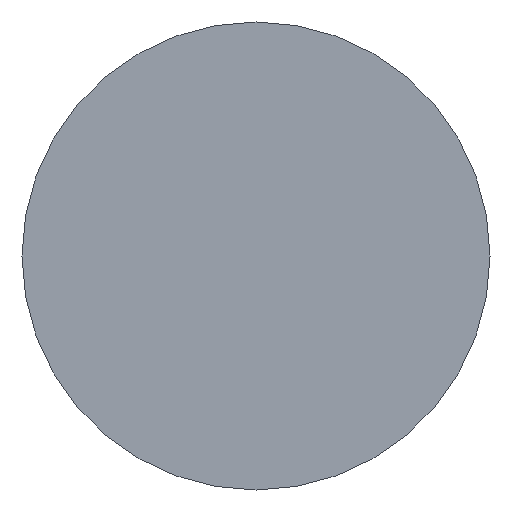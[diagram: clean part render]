
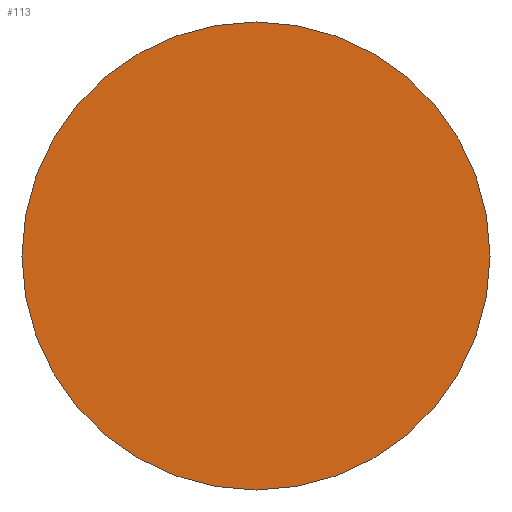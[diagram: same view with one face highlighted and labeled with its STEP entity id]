
A CAD part, front view. The second image highlights one B-rep face of the part: STEP entity #113.
In plain terms, the highlighted planar face has unit normal (0, -1, 0).
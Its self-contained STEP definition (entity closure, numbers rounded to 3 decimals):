
#22 = VERTEX_POINT('',#23);
#23 = CARTESIAN_POINT('',(39.5,4.,-10.));
#32 = CYLINDRICAL_SURFACE('',#33,2.5);
#33 = AXIS2_PLACEMENT_3D('',#34,#35,#36);
#34 = CARTESIAN_POINT('',(42.,4.,-10.));
#35 = DIRECTION('',(0.,-1.,0.));
#36 = DIRECTION('',(-1.,-0.,-0.));
#83 = EDGE_CURVE('',#22,#22,#84,.T.);
#84 = SURFACE_CURVE('',#85,(#90,#97),.PCURVE_S1.);
#85 = CIRCLE('',#86,2.5);
#86 = AXIS2_PLACEMENT_3D('',#87,#88,#89);
#87 = CARTESIAN_POINT('',(42.,4.,-10.));
#88 = DIRECTION('',(0.,-1.,0.));
#89 = DIRECTION('',(-1.,-0.,-0.));
#90 = PCURVE('',#32,#91);
#91 = DEFINITIONAL_REPRESENTATION('',(#92),#96);
#92 = LINE('',#93,#94);
#93 = CARTESIAN_POINT('',(0.,0.));
#94 = VECTOR('',#95,1.);
#95 = DIRECTION('',(1.,0.));
#96 = ( GEOMETRIC_REPRESENTATION_CONTEXT(2) 
PARAMETRIC_REPRESENTATION_CONTEXT() REPRESENTATION_CONTEXT('2D SPACE',''
  ) );
#97 = PCURVE('',#98,#103);
#98 = PLANE('',#99);
#99 = AXIS2_PLACEMENT_3D('',#100,#101,#102);
#100 = CARTESIAN_POINT('',(42.,4.,-10.));
#101 = DIRECTION('',(-0.,1.,0.));
#102 = DIRECTION('',(1.,0.,0.));
#103 = DEFINITIONAL_REPRESENTATION('',(#104),#112);
#104 = ( BOUNDED_CURVE() B_SPLINE_CURVE(2,(#105,#106,#107,#108,#109,#110
,#111),.UNSPECIFIED.,.T.,.F.) B_SPLINE_CURVE_WITH_KNOTS((1,2,2,2,2,1),(
    -2.094,0.,2.094,4.189,6.283,
8.378),.UNSPECIFIED.) CURVE() GEOMETRIC_REPRESENTATION_ITEM() 
RATIONAL_B_SPLINE_CURVE((1.,0.5,1.,0.5,1.,0.5,1.)) REPRESENTATION_ITEM(
  '') );
#105 = CARTESIAN_POINT('',(-2.5,0.));
#106 = CARTESIAN_POINT('',(-2.5,4.33));
#107 = CARTESIAN_POINT('',(1.25,2.165));
#108 = CARTESIAN_POINT('',(5.,0.));
#109 = CARTESIAN_POINT('',(1.25,-2.165));
#110 = CARTESIAN_POINT('',(-2.5,-4.33));
#111 = CARTESIAN_POINT('',(-2.5,0.));
#112 = ( GEOMETRIC_REPRESENTATION_CONTEXT(2) 
PARAMETRIC_REPRESENTATION_CONTEXT() REPRESENTATION_CONTEXT('2D SPACE',''
  ) );
#113 = ADVANCED_FACE('',(#114),#98,.F.);
#114 = FACE_BOUND('',#115,.T.);
#115 = EDGE_LOOP('',(#116));
#116 = ORIENTED_EDGE('',*,*,#83,.T.);
